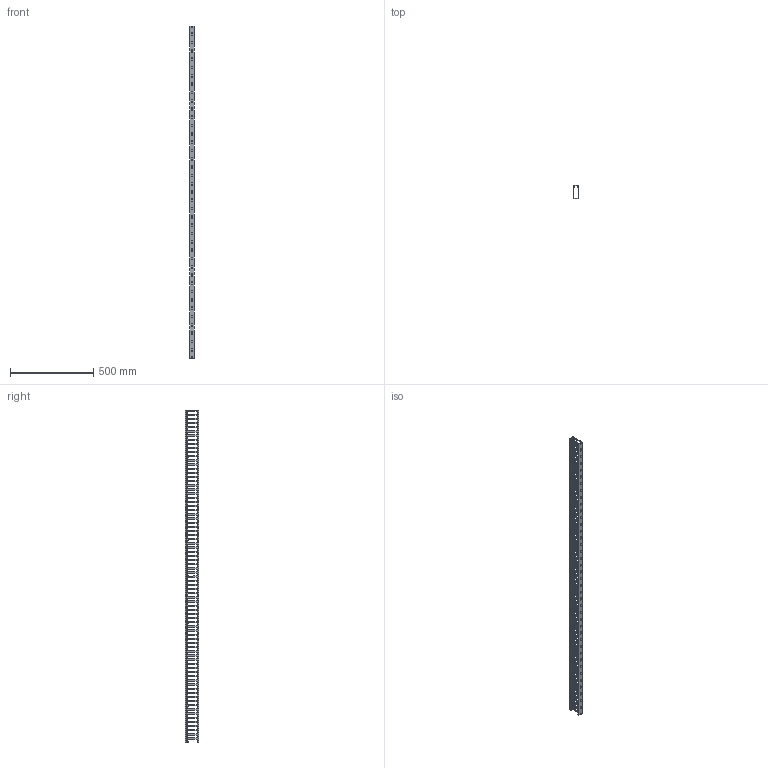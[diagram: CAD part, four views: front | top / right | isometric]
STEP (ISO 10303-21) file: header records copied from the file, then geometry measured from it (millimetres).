
FILE_DESCRIPTION (( 'STEP AP214' ), '1' );
FILE_NAME ('KD-38-20-LL.STEP', '2020-02-19T00:18:49', ( '' ), ( '' ), 'SwSTEP 2.0', 'SolidWorks 2018', '' );
FILE_SCHEMA (( 'AUTOMOTIVE_DESIGN' ));
Length unit declared in the file: millimetre
Products named in the file (3): KD-38-20-LL; KD-34-20-cover; KD-38-20-LL-body
Assembly tree (2 placements, depth 2):
  KD-38-20-LL
    KD-38-20-LL-body
    KD-34-20-cover
Bounding box: 30 x 80.17 x 2000 mm (x, y, z)
Volume: 560404.9 mm3; surface area: 730075.9 mm2
Topology: 2 solids, 2 shells, 1543 faces, 4617 edges, 3078 vertices
Faces by surface type: cylinder 795, plane 748
Entity records: 53319 total; most frequent: DIRECTION 9303, CARTESIAN_POINT 9243, ORIENTED_EDGE 9234, EDGE_CURVE 4617, AXIS2_PLACEMENT_3D 3138, VERTEX_POINT 3078, VECTOR 3027, LINE 3027
